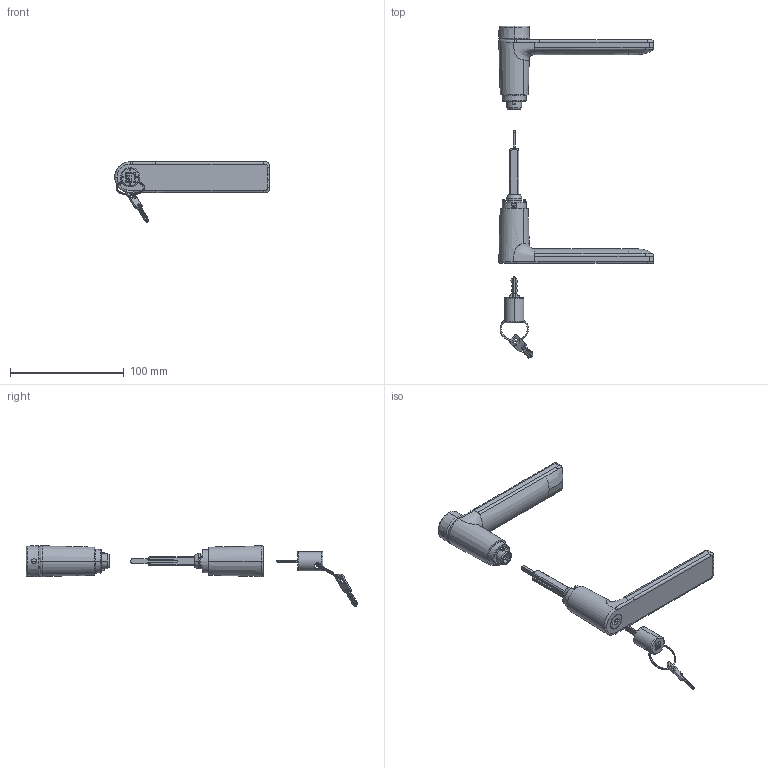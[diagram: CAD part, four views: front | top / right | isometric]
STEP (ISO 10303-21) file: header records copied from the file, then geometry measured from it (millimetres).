
FILE_DESCRIPTION((''),'2;1');
FILE_NAME('AIR_HANDLES_13_ASM','2025-05-06T12:08:07',('carlone'),(''),'CREO PARAMETRIC BY PTC INC, 2020454','CREO PARAMETRIC BY PTC INC, 2020454','');
FILE_SCHEMA(('CONFIG_CONTROL_DESIGN','SHAPE_APPEARANCE_LAYERS_GROUPS'));
Length unit declared in the file: millimetre
Products named in the file (3): AIR_MANIGLIA_EST_2025_05_06; AIR_MANIGLIA_INT_2025_05_06; AIR_HANDLES_13_ASM
Assembly tree (2 placements, depth 2):
  AIR_HANDLES_13_ASM
    AIR_MANIGLIA_EST_2025_05_06
    AIR_MANIGLIA_INT_2025_05_06
Bounding box: 136.36 x 292.28 x 53.36 mm (x, y, z)
Volume: 126748.9 mm3; surface area: 60785.2 mm2
Topology: 6 solids, 14 shells, 1700 faces, 5185 edges, 3433 vertices
Faces by surface type: plane 847, cylinder 358, cone 237, bspline 148, torus 83, sphere 23, extrusion 4
Entity records: 89894 total; most frequent: CARTESIAN_POINT 44577, ORIENTED_EDGE 10320, DIRECTION 8694, EDGE_CURVE 5162, VERTEX_POINT 3433, AXIS2_PLACEMENT_3D 3204, VECTOR 2286, LINE 2282
